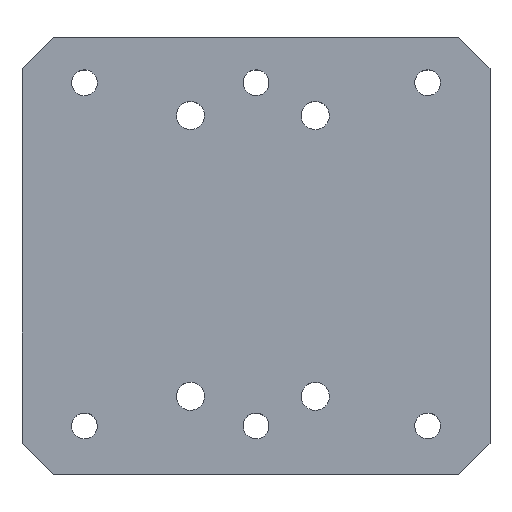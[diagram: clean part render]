
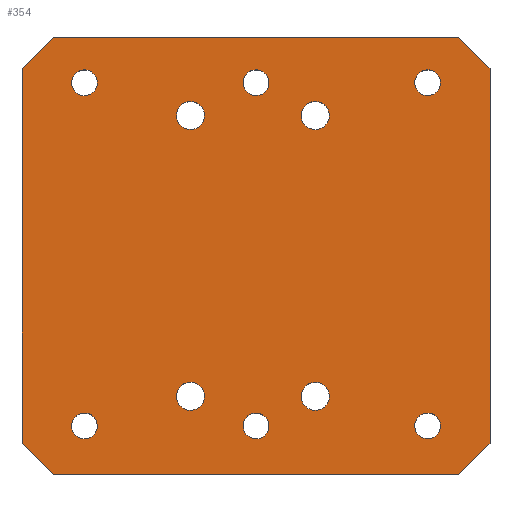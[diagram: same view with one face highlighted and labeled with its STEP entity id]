
A CAD part, top view. The second image highlights one B-rep face of the part: STEP entity #354.
In plain terms, the highlighted planar face has unit normal (0, 0, 1).
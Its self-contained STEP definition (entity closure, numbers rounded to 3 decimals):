
#81=AXIS2_PLACEMENT_3D('Circle Axis2P3D',#79,#80,$) ;
#107=AXIS2_PLACEMENT_3D('Circle Axis2P3D',#105,#106,$) ;
#120=AXIS2_PLACEMENT_3D('Plane Axis2P3D',#117,#118,#119) ;
#194=AXIS2_PLACEMENT_3D('Circle Axis2P3D',#192,#193,$) ;
#203=AXIS2_PLACEMENT_3D('Circle Axis2P3D',#201,#202,$) ;
#212=AXIS2_PLACEMENT_3D('Circle Axis2P3D',#210,#211,$) ;
#221=AXIS2_PLACEMENT_3D('Circle Axis2P3D',#219,#220,$) ;
#230=AXIS2_PLACEMENT_3D('Circle Axis2P3D',#228,#229,$) ;
#239=AXIS2_PLACEMENT_3D('Circle Axis2P3D',#237,#238,$) ;
#248=AXIS2_PLACEMENT_3D('Circle Axis2P3D',#246,#247,$) ;
#257=AXIS2_PLACEMENT_3D('Circle Axis2P3D',#255,#256,$) ;
#266=AXIS2_PLACEMENT_3D('Circle Axis2P3D',#264,#265,$) ;
#275=AXIS2_PLACEMENT_3D('Circle Axis2P3D',#273,#274,$) ;
#284=AXIS2_PLACEMENT_3D('Circle Axis2P3D',#282,#283,$) ;
#293=AXIS2_PLACEMENT_3D('Circle Axis2P3D',#291,#292,$) ;
#302=AXIS2_PLACEMENT_3D('Circle Axis2P3D',#300,#301,$) ;
#311=AXIS2_PLACEMENT_3D('Circle Axis2P3D',#309,#310,$) ;
#320=AXIS2_PLACEMENT_3D('Circle Axis2P3D',#318,#319,$) ;
#329=AXIS2_PLACEMENT_3D('Circle Axis2P3D',#327,#328,$) ;
#338=AXIS2_PLACEMENT_3D('Circle Axis2P3D',#336,#337,$) ;
#347=AXIS2_PLACEMENT_3D('Circle Axis2P3D',#345,#346,$) ;
#79=CARTESIAN_POINT('Axis2P3D Location',(27.,12.5,15.)) ;
#83=CARTESIAN_POINT('Vertex',(28.975,13.579,15.)) ;
#85=CARTESIAN_POINT('Vertex',(25.025,11.421,15.)) ;
#105=CARTESIAN_POINT('Axis2P3D Location',(27.,12.5,15.)) ;
#117=CARTESIAN_POINT('Axis2P3D Location',(0.,0.,15.)) ;
#122=CARTESIAN_POINT('Line Origine',(37.5,0.,15.)) ;
#126=CARTESIAN_POINT('Vertex',(5.,0.,15.)) ;
#128=CARTESIAN_POINT('Vertex',(70.,0.,15.)) ;
#131=CARTESIAN_POINT('Line Origine',(72.5,2.5,15.)) ;
#135=CARTESIAN_POINT('Vertex',(75.,5.,15.)) ;
#138=CARTESIAN_POINT('Line Origine',(75.,35.,15.)) ;
#142=CARTESIAN_POINT('Vertex',(75.,65.,15.)) ;
#145=CARTESIAN_POINT('Line Origine',(72.5,67.5,15.)) ;
#149=CARTESIAN_POINT('Vertex',(70.,70.,15.)) ;
#152=CARTESIAN_POINT('Line Origine',(37.5,70.,15.)) ;
#156=CARTESIAN_POINT('Vertex',(5.,70.,15.)) ;
#159=CARTESIAN_POINT('Line Origine',(2.5,67.5,15.)) ;
#163=CARTESIAN_POINT('Vertex',(0.,65.,15.)) ;
#166=CARTESIAN_POINT('Line Origine',(0.,35.,15.)) ;
#170=CARTESIAN_POINT('Vertex',(0.,5.,15.)) ;
#173=CARTESIAN_POINT('Line Origine',(2.5,2.5,15.)) ;
#192=CARTESIAN_POINT('Axis2P3D Location',(10.,62.75,15.)) ;
#196=CARTESIAN_POINT('Vertex',(8.186,61.759,15.)) ;
#198=CARTESIAN_POINT('Vertex',(11.814,63.741,15.)) ;
#201=CARTESIAN_POINT('Axis2P3D Location',(10.,62.75,15.)) ;
#210=CARTESIAN_POINT('Axis2P3D Location',(10.,7.75,15.)) ;
#214=CARTESIAN_POINT('Vertex',(11.814,8.741,15.)) ;
#216=CARTESIAN_POINT('Vertex',(8.186,6.759,15.)) ;
#219=CARTESIAN_POINT('Axis2P3D Location',(10.,7.75,15.)) ;
#228=CARTESIAN_POINT('Axis2P3D Location',(37.5,7.75,15.)) ;
#232=CARTESIAN_POINT('Vertex',(35.686,6.759,15.)) ;
#234=CARTESIAN_POINT('Vertex',(39.314,8.741,15.)) ;
#237=CARTESIAN_POINT('Axis2P3D Location',(37.5,7.75,15.)) ;
#246=CARTESIAN_POINT('Axis2P3D Location',(37.5,62.75,15.)) ;
#250=CARTESIAN_POINT('Vertex',(35.686,61.759,15.)) ;
#252=CARTESIAN_POINT('Vertex',(39.314,63.741,15.)) ;
#255=CARTESIAN_POINT('Axis2P3D Location',(37.5,62.75,15.)) ;
#264=CARTESIAN_POINT('Axis2P3D Location',(65.,7.75,15.)) ;
#268=CARTESIAN_POINT('Vertex',(63.186,6.759,15.)) ;
#270=CARTESIAN_POINT('Vertex',(66.814,8.741,15.)) ;
#273=CARTESIAN_POINT('Axis2P3D Location',(65.,7.75,15.)) ;
#282=CARTESIAN_POINT('Axis2P3D Location',(65.,62.75,15.)) ;
#286=CARTESIAN_POINT('Vertex',(63.186,61.759,15.)) ;
#288=CARTESIAN_POINT('Vertex',(66.814,63.741,15.)) ;
#291=CARTESIAN_POINT('Axis2P3D Location',(65.,62.75,15.)) ;
#300=CARTESIAN_POINT('Axis2P3D Location',(27.,57.5,15.)) ;
#304=CARTESIAN_POINT('Vertex',(25.025,56.421,15.)) ;
#306=CARTESIAN_POINT('Vertex',(28.975,58.579,15.)) ;
#309=CARTESIAN_POINT('Axis2P3D Location',(27.,57.5,15.)) ;
#318=CARTESIAN_POINT('Axis2P3D Location',(47.,12.5,15.)) ;
#322=CARTESIAN_POINT('Vertex',(45.025,11.421,15.)) ;
#324=CARTESIAN_POINT('Vertex',(48.975,13.579,15.)) ;
#327=CARTESIAN_POINT('Axis2P3D Location',(47.,12.5,15.)) ;
#336=CARTESIAN_POINT('Axis2P3D Location',(47.,57.5,15.)) ;
#340=CARTESIAN_POINT('Vertex',(45.025,56.421,15.)) ;
#342=CARTESIAN_POINT('Vertex',(48.975,58.579,15.)) ;
#345=CARTESIAN_POINT('Axis2P3D Location',(47.,57.5,15.)) ;
#80=DIRECTION('Axis2P3D Direction',(0.,-0.,1.)) ;
#106=DIRECTION('Axis2P3D Direction',(0.,-0.,1.)) ;
#118=DIRECTION('Axis2P3D Direction',(0.,0.,1.)) ;
#119=DIRECTION('Axis2P3D XDirection',(1.,0.,0.)) ;
#123=DIRECTION('Vector Direction',(1.,0.,0.)) ;
#132=DIRECTION('Vector Direction',(-0.707,-0.707,0.)) ;
#139=DIRECTION('Vector Direction',(0.,1.,0.)) ;
#146=DIRECTION('Vector Direction',(0.707,-0.707,0.)) ;
#153=DIRECTION('Vector Direction',(-1.,0.,0.)) ;
#160=DIRECTION('Vector Direction',(0.707,0.707,0.)) ;
#167=DIRECTION('Vector Direction',(0.,-1.,0.)) ;
#174=DIRECTION('Vector Direction',(0.707,-0.707,0.)) ;
#193=DIRECTION('Axis2P3D Direction',(0.,0.,1.)) ;
#202=DIRECTION('Axis2P3D Direction',(0.,0.,1.)) ;
#211=DIRECTION('Axis2P3D Direction',(0.,0.,1.)) ;
#220=DIRECTION('Axis2P3D Direction',(0.,0.,1.)) ;
#229=DIRECTION('Axis2P3D Direction',(0.,0.,1.)) ;
#238=DIRECTION('Axis2P3D Direction',(0.,0.,1.)) ;
#247=DIRECTION('Axis2P3D Direction',(0.,0.,1.)) ;
#256=DIRECTION('Axis2P3D Direction',(0.,0.,1.)) ;
#265=DIRECTION('Axis2P3D Direction',(0.,0.,1.)) ;
#274=DIRECTION('Axis2P3D Direction',(0.,0.,1.)) ;
#283=DIRECTION('Axis2P3D Direction',(0.,0.,1.)) ;
#292=DIRECTION('Axis2P3D Direction',(0.,0.,1.)) ;
#301=DIRECTION('Axis2P3D Direction',(0.,0.,1.)) ;
#310=DIRECTION('Axis2P3D Direction',(0.,0.,1.)) ;
#319=DIRECTION('Axis2P3D Direction',(0.,0.,1.)) ;
#328=DIRECTION('Axis2P3D Direction',(0.,0.,1.)) ;
#337=DIRECTION('Axis2P3D Direction',(0.,0.,1.)) ;
#346=DIRECTION('Axis2P3D Direction',(0.,0.,1.)) ;
#124=VECTOR('Line Direction',#123,1.) ;
#133=VECTOR('Line Direction',#132,1.) ;
#140=VECTOR('Line Direction',#139,1.) ;
#147=VECTOR('Line Direction',#146,1.) ;
#154=VECTOR('Line Direction',#153,1.) ;
#161=VECTOR('Line Direction',#160,1.) ;
#168=VECTOR('Line Direction',#167,1.) ;
#175=VECTOR('Line Direction',#174,1.) ;
#179=ORIENTED_EDGE('',*,*,#130,.T.) ;
#180=ORIENTED_EDGE('',*,*,#137,.F.) ;
#181=ORIENTED_EDGE('',*,*,#144,.T.) ;
#182=ORIENTED_EDGE('',*,*,#151,.F.) ;
#183=ORIENTED_EDGE('',*,*,#158,.T.) ;
#184=ORIENTED_EDGE('',*,*,#165,.F.) ;
#185=ORIENTED_EDGE('',*,*,#172,.T.) ;
#186=ORIENTED_EDGE('',*,*,#177,.F.) ;
#189=ORIENTED_EDGE('',*,*,#87,.F.) ;
#190=ORIENTED_EDGE('',*,*,#109,.F.) ;
#207=ORIENTED_EDGE('',*,*,#200,.F.) ;
#208=ORIENTED_EDGE('',*,*,#205,.F.) ;
#225=ORIENTED_EDGE('',*,*,#218,.F.) ;
#226=ORIENTED_EDGE('',*,*,#223,.F.) ;
#243=ORIENTED_EDGE('',*,*,#236,.F.) ;
#244=ORIENTED_EDGE('',*,*,#241,.F.) ;
#261=ORIENTED_EDGE('',*,*,#254,.F.) ;
#262=ORIENTED_EDGE('',*,*,#259,.F.) ;
#279=ORIENTED_EDGE('',*,*,#272,.F.) ;
#280=ORIENTED_EDGE('',*,*,#277,.F.) ;
#297=ORIENTED_EDGE('',*,*,#290,.F.) ;
#298=ORIENTED_EDGE('',*,*,#295,.F.) ;
#315=ORIENTED_EDGE('',*,*,#308,.F.) ;
#316=ORIENTED_EDGE('',*,*,#313,.F.) ;
#333=ORIENTED_EDGE('',*,*,#326,.F.) ;
#334=ORIENTED_EDGE('',*,*,#331,.F.) ;
#351=ORIENTED_EDGE('',*,*,#344,.F.) ;
#352=ORIENTED_EDGE('',*,*,#349,.F.) ;
#191=FACE_BOUND('',#188,.T.) ;
#209=FACE_BOUND('',#206,.T.) ;
#227=FACE_BOUND('',#224,.T.) ;
#245=FACE_BOUND('',#242,.T.) ;
#263=FACE_BOUND('',#260,.T.) ;
#281=FACE_BOUND('',#278,.T.) ;
#299=FACE_BOUND('',#296,.T.) ;
#317=FACE_BOUND('',#314,.T.) ;
#335=FACE_BOUND('',#332,.T.) ;
#353=FACE_BOUND('',#350,.T.) ;
#354=ADVANCED_FACE('\X2\96F64EF651E04F554F53\X0\',(#187,#191,#209,#227,#245,#263,#281,#299,#317,#335,#353),#121,.T.) ;
#82=CIRCLE('generated circle',#81,2.25) ;
#108=CIRCLE('generated circle',#107,2.25) ;
#195=CIRCLE('generated circle',#194,2.067) ;
#204=CIRCLE('generated circle',#203,2.067) ;
#213=CIRCLE('generated circle',#212,2.067) ;
#222=CIRCLE('generated circle',#221,2.067) ;
#231=CIRCLE('generated circle',#230,2.067) ;
#240=CIRCLE('generated circle',#239,2.067) ;
#249=CIRCLE('generated circle',#248,2.067) ;
#258=CIRCLE('generated circle',#257,2.067) ;
#267=CIRCLE('generated circle',#266,2.067) ;
#276=CIRCLE('generated circle',#275,2.067) ;
#285=CIRCLE('generated circle',#284,2.067) ;
#294=CIRCLE('generated circle',#293,2.067) ;
#303=CIRCLE('generated circle',#302,2.25) ;
#312=CIRCLE('generated circle',#311,2.25) ;
#321=CIRCLE('generated circle',#320,2.25) ;
#330=CIRCLE('generated circle',#329,2.25) ;
#339=CIRCLE('generated circle',#338,2.25) ;
#348=CIRCLE('generated circle',#347,2.25) ;
#87=EDGE_CURVE('',#84,#86,#82,.T.) ;
#109=EDGE_CURVE('',#86,#84,#108,.T.) ;
#130=EDGE_CURVE('',#127,#129,#125,.T.) ;
#137=EDGE_CURVE('',#136,#129,#134,.T.) ;
#144=EDGE_CURVE('',#136,#143,#141,.T.) ;
#151=EDGE_CURVE('',#150,#143,#148,.T.) ;
#158=EDGE_CURVE('',#150,#157,#155,.T.) ;
#165=EDGE_CURVE('',#164,#157,#162,.T.) ;
#172=EDGE_CURVE('',#164,#171,#169,.T.) ;
#177=EDGE_CURVE('',#127,#171,#176,.F.) ;
#200=EDGE_CURVE('',#197,#199,#195,.T.) ;
#205=EDGE_CURVE('',#199,#197,#204,.T.) ;
#218=EDGE_CURVE('',#215,#217,#213,.T.) ;
#223=EDGE_CURVE('',#217,#215,#222,.T.) ;
#236=EDGE_CURVE('',#233,#235,#231,.T.) ;
#241=EDGE_CURVE('',#235,#233,#240,.T.) ;
#254=EDGE_CURVE('',#251,#253,#249,.T.) ;
#259=EDGE_CURVE('',#253,#251,#258,.T.) ;
#272=EDGE_CURVE('',#269,#271,#267,.T.) ;
#277=EDGE_CURVE('',#271,#269,#276,.T.) ;
#290=EDGE_CURVE('',#287,#289,#285,.T.) ;
#295=EDGE_CURVE('',#289,#287,#294,.T.) ;
#308=EDGE_CURVE('',#305,#307,#303,.T.) ;
#313=EDGE_CURVE('',#307,#305,#312,.T.) ;
#326=EDGE_CURVE('',#323,#325,#321,.T.) ;
#331=EDGE_CURVE('',#325,#323,#330,.T.) ;
#344=EDGE_CURVE('',#341,#343,#339,.T.) ;
#349=EDGE_CURVE('',#343,#341,#348,.T.) ;
#178=EDGE_LOOP('',(#179,#180,#181,#182,#183,#184,#185,#186)) ;
#188=EDGE_LOOP('',(#189,#190)) ;
#206=EDGE_LOOP('',(#207,#208)) ;
#224=EDGE_LOOP('',(#225,#226)) ;
#242=EDGE_LOOP('',(#243,#244)) ;
#260=EDGE_LOOP('',(#261,#262)) ;
#278=EDGE_LOOP('',(#279,#280)) ;
#296=EDGE_LOOP('',(#297,#298)) ;
#314=EDGE_LOOP('',(#315,#316)) ;
#332=EDGE_LOOP('',(#333,#334)) ;
#350=EDGE_LOOP('',(#351,#352)) ;
#187=FACE_OUTER_BOUND('',#178,.T.) ;
#125=LINE('Line',#122,#124) ;
#134=LINE('Line',#131,#133) ;
#141=LINE('Line',#138,#140) ;
#148=LINE('Line',#145,#147) ;
#155=LINE('Line',#152,#154) ;
#162=LINE('Line',#159,#161) ;
#169=LINE('Line',#166,#168) ;
#176=LINE('Line',#173,#175) ;
#121=PLANE('',#120) ;
#84=VERTEX_POINT('',#83) ;
#86=VERTEX_POINT('',#85) ;
#127=VERTEX_POINT('',#126) ;
#129=VERTEX_POINT('',#128) ;
#136=VERTEX_POINT('',#135) ;
#143=VERTEX_POINT('',#142) ;
#150=VERTEX_POINT('',#149) ;
#157=VERTEX_POINT('',#156) ;
#164=VERTEX_POINT('',#163) ;
#171=VERTEX_POINT('',#170) ;
#197=VERTEX_POINT('',#196) ;
#199=VERTEX_POINT('',#198) ;
#215=VERTEX_POINT('',#214) ;
#217=VERTEX_POINT('',#216) ;
#233=VERTEX_POINT('',#232) ;
#235=VERTEX_POINT('',#234) ;
#251=VERTEX_POINT('',#250) ;
#253=VERTEX_POINT('',#252) ;
#269=VERTEX_POINT('',#268) ;
#271=VERTEX_POINT('',#270) ;
#287=VERTEX_POINT('',#286) ;
#289=VERTEX_POINT('',#288) ;
#305=VERTEX_POINT('',#304) ;
#307=VERTEX_POINT('',#306) ;
#323=VERTEX_POINT('',#322) ;
#325=VERTEX_POINT('',#324) ;
#341=VERTEX_POINT('',#340) ;
#343=VERTEX_POINT('',#342) ;
